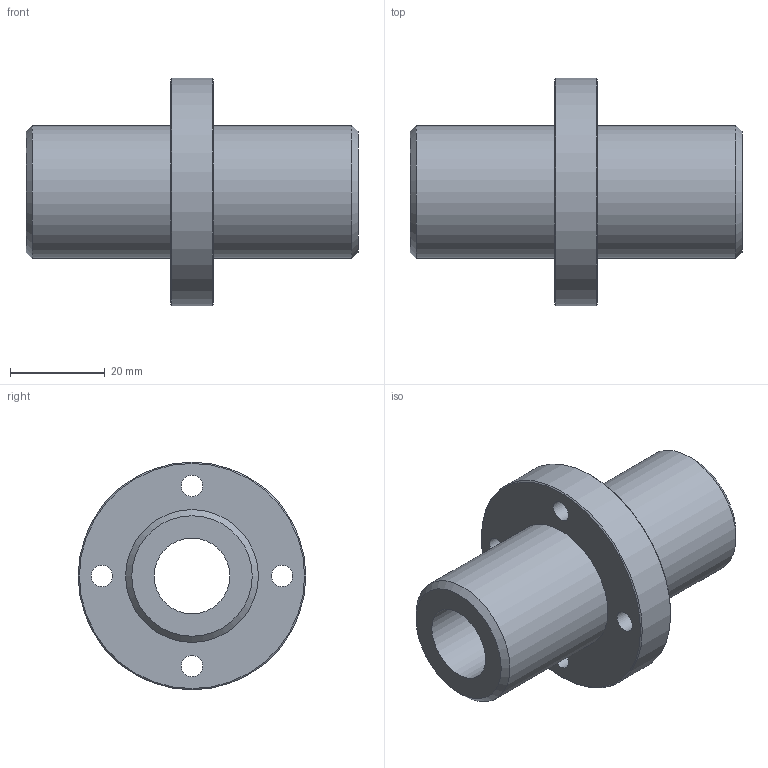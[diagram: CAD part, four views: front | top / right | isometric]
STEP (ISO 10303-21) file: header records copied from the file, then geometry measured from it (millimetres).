
FILE_DESCRIPTION(('STEP AP203'),'1');
FILE_NAME('//192.168.1.1/share/s-4 技術開発/s-4-4_CAD/s-4-4-3_見直し済み/PBC LINEAR修正済み/CFPJ/CFPJ_TOP/CFPJR/CFPJR16.step','2022-03-24T04:17:34',(' '),(' '),'Spatial InterOp 3D',' ',' ');
FILE_SCHEMA(('CONFIG_CONTROL_DESIGN'));
Length unit declared in the file: millimetre
Products named in the file (1): 1
Bounding box: 70 x 48 x 48 mm (x, y, z)
Volume: 38582.6 mm3; surface area: 13811.4 mm2
Topology: 1 solids, 1 shells, 24 faces, 50 edges, 34 vertices
Faces by surface type: cylinder 12, plane 8, cone 4
Full cylindrical faces by diameter (mm): 4.5 x4, 7.5 x4, 16 x1, 28 x2, 48 x1
Entity records: 588 total; most frequent: DIRECTION 106, CARTESIAN_POINT 81, EDGE_LOOP 56, ORIENTED_EDGE 56, AXIS2_PLACEMENT_3D 53, FACE_OUTER_BOUND 36, EDGE_CURVE 28, VERTEX_POINT 28
